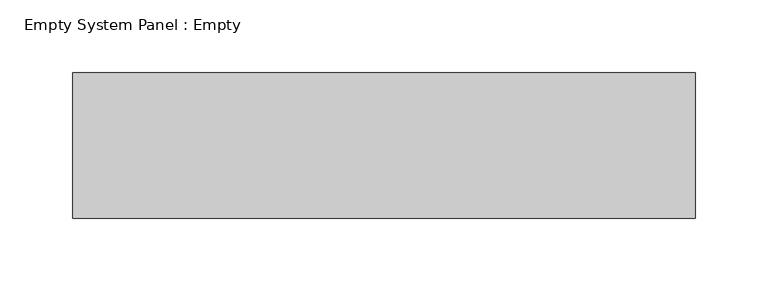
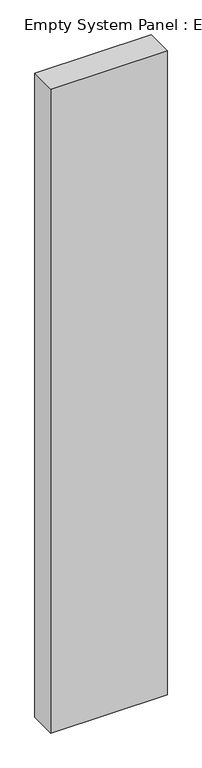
"""IFC4 building model written with IfcOpenShell, lengths in millimetres: plate geometry, Empty System Panel : Empty."""

from ifc_helpers import new_model, si_unit, origin, origin_with_axes, place, context, project, spatial, polyline, outline, extrude, source, transform, mapped, element, save


def empty_system_panel_empty_1f33cd26(model_context):
    return source(origin(), model_context, "Body", "SweptSolid", [
        extrude(outline(polyline([(213.7500001, 50.0), (-213.7500001, 50.0), (-213.7500001, 150.0), (213.7500001, 150.0), (213.7500001, 50.0)])), origin_with_axes(), (0.0, 0.0, 1.0), 2500.0),
    ])


if __name__ == "__main__":
    model = new_model("IFC4")
    model_context = context("Model", 3, world=origin())
    ifc_project = project(units=[si_unit("LENGTHUNIT", "METRE", prefix="MILLI")], contexts=[model_context])
    site = spatial("IfcSite", under=ifc_project)
    building = spatial("IfcBuilding", under=site)
    placement = place(None, origin())
    empty_system_panel_empty_shape = empty_system_panel_empty_1f33cd26(model_context)
    element("IfcPlate", 1, ObjectType="Empty System Panel : Empty", at=placement, inside=building, context=model_context, shape_type="MappedRepresentation", body=[
        mapped(empty_system_panel_empty_shape, transform((0.0, 0.0, 0.0), x_axis=(1.0, 0.0, 0.0), y_axis=(0.0, 1.0, 0.0), z_axis=(0.0, 0.0, 1.0))),
    ])
    save(model, "model.ifc")
